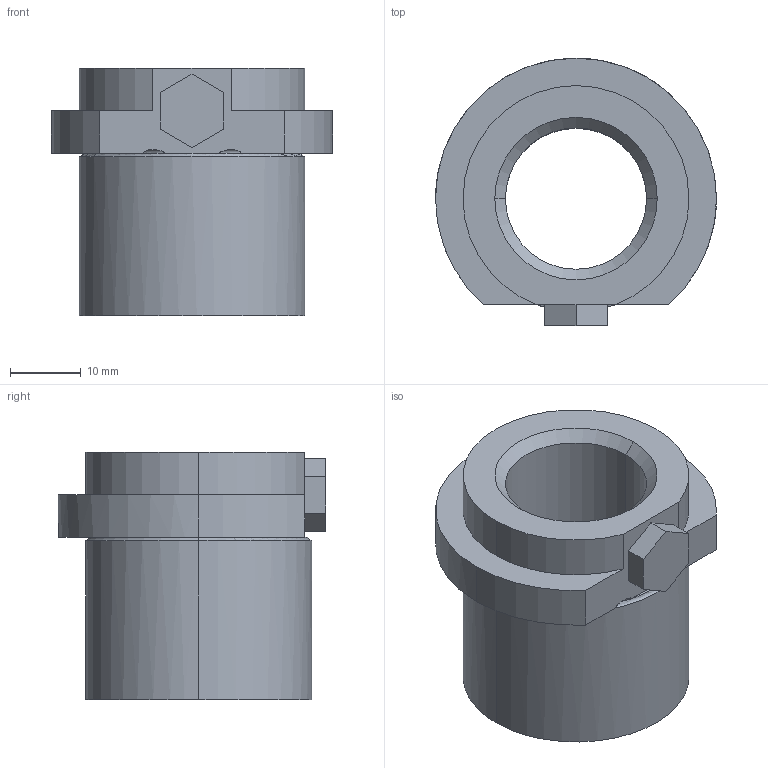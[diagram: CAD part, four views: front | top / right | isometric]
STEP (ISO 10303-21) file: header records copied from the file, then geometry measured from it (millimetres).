
FILE_DESCRIPTION(('CATIA V5 STEP Exchange'),'2;1');
FILE_NAME('C:\Users\Utente\Desktop\IO LAVORO\3D X SITO CF\X SITO\740\740-20.stp','2021-01-18T19:40:43+00:00',('none'),('none'),'CATIA Version 5 Release 20 GA (IN-10)','CATIA V5 STEP AP203','none');
FILE_SCHEMA(('CONFIG_CONTROL_DESIGN'));
Length unit declared in the file: millimetre
Products named in the file (1): 740-20
Assembly tree (1 placements, depth 2):
  740-20
    #58
Bounding box: 39.8 x 37.9 x 35 mm (x, y, z)
Volume: 19092.2 mm3; surface area: 7725 mm2
Topology: 1 solids, 1 shells, 35 faces, 89 edges, 58 vertices
Faces by surface type: plane 14, cylinder 12, torus 5, cone 4
Entity records: 1324 total; most frequent: CARTESIAN_POINT 457, ORIENTED_EDGE 178, DIRECTION 139, EDGE_CURVE 89, AXIS2_PLACEMENT_3D 63, VERTEX_POINT 58, VECTOR 42, LINE 42
